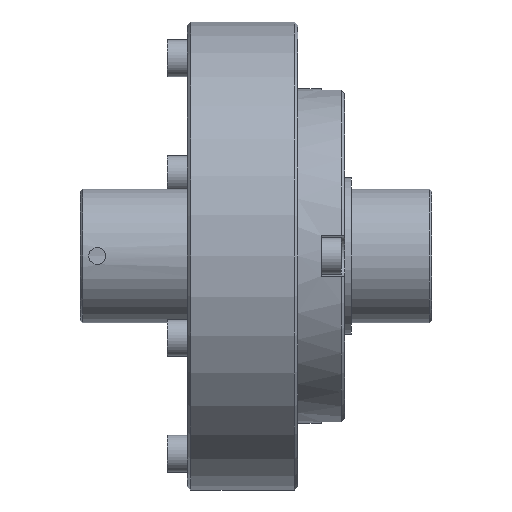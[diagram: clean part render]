
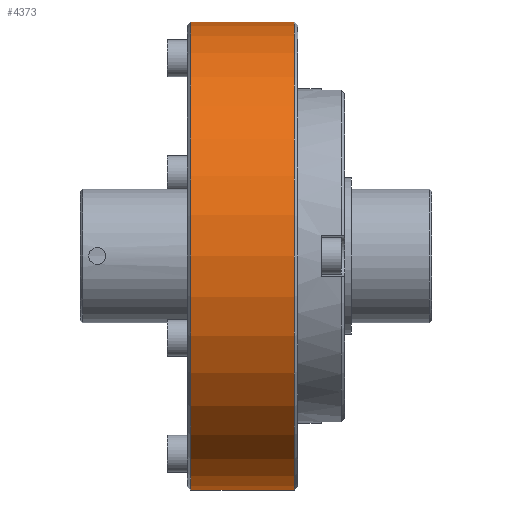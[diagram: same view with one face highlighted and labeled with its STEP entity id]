
A CAD part, front view. The second image highlights one B-rep face of the part: STEP entity #4373.
In plain terms, the highlighted cylindrical face has radius 35 mm (diameter 70 mm), a partial arc.
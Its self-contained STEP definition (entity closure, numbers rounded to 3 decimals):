
#771=CARTESIAN_POINT('',(0.5,0.,0.));
#772=DIRECTION('',(-1.,0.,0.));
#773=DIRECTION('',(0.,0.,-1.));
#774=AXIS2_PLACEMENT_3D('',#771,#772,#773);
#793=DIRECTION('',(-1.,0.,0.));
#794=VECTOR('',#793,15.5);
#795=CARTESIAN_POINT('',(16.,0.,35.));
#796=LINE('',#795,#794);
#800=DIRECTION('',(-1.,0.,0.));
#801=VECTOR('',#800,15.5);
#802=CARTESIAN_POINT('',(16.,0.,-35.));
#803=LINE('',#802,#801);
#807=CARTESIAN_POINT('',(16.,0.,0.));
#808=DIRECTION('',(1.,0.,0.));
#809=DIRECTION('',(0.,0.,1.));
#810=AXIS2_PLACEMENT_3D('',#807,#808,#809);
#3489=CARTESIAN_POINT('',(16.,0.,-35.));
#3490=CARTESIAN_POINT('',(0.5,0.,-35.));
#3491=VERTEX_POINT('',#3489);
#3492=VERTEX_POINT('',#3490);
#3493=CARTESIAN_POINT('',(16.,0.,35.));
#3494=CARTESIAN_POINT('',(0.5,0.,35.));
#3495=VERTEX_POINT('',#3493);
#3496=VERTEX_POINT('',#3494);
#4361=CARTESIAN_POINT('',(-14.895,0.,0.));
#4362=DIRECTION('',(-1.,0.,0.));
#4363=DIRECTION('',(0.,0.,1.));
#4364=AXIS2_PLACEMENT_3D('',#4361,#4362,#4363);
#4365=CYLINDRICAL_SURFACE('',#4364,35.);
#4366=ORIENTED_EDGE('',*,*,#4352,.T.);
#4367=ORIENTED_EDGE('',*,*,#4327,.F.);
#4369=ORIENTED_EDGE('',*,*,#4368,.T.);
#4370=ORIENTED_EDGE('',*,*,#4324,.T.);
#4371=EDGE_LOOP('',(#4366,#4367,#4369,#4370));
#4372=FACE_OUTER_BOUND('',#4371,.F.);
#775=CIRCLE('',#774,35.);
#811=CIRCLE('',#810,35.);
#4324=EDGE_CURVE('',#3491,#3492,#803,.T.);
#4327=EDGE_CURVE('',#3495,#3496,#796,.T.);
#4352=EDGE_CURVE('',#3492,#3496,#775,.T.);
#4368=EDGE_CURVE('',#3495,#3491,#811,.T.);
#4373=ADVANCED_FACE('',(#4372),#4365,.T.);
